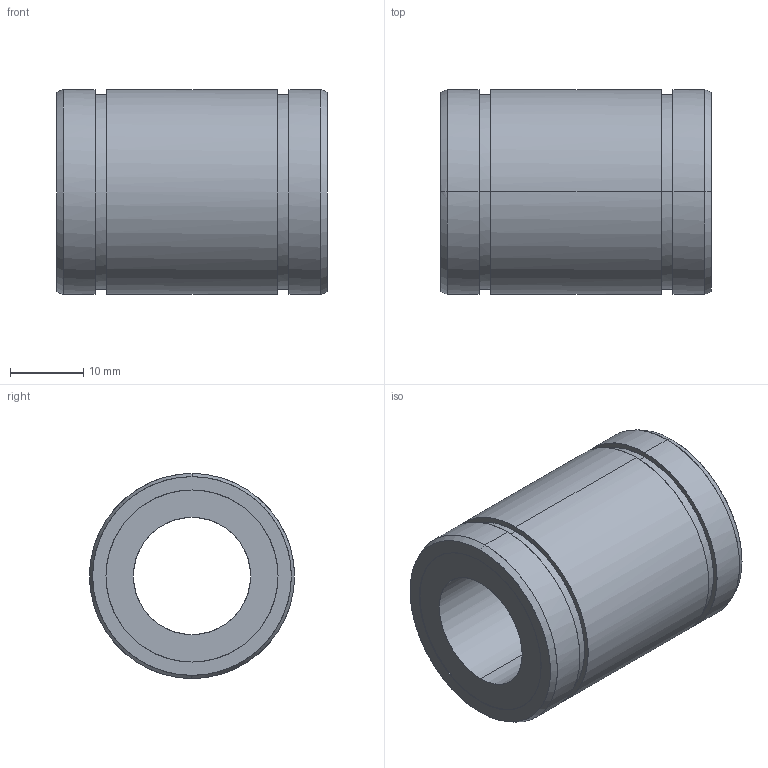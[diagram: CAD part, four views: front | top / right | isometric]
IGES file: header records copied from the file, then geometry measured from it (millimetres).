
Global section: file name: No Iges File Name specified; native system: AutoDesk Inventor R10; preprocessor: AutoDesk Inventor Iges Exporter R10; author: No Author specified; organization: No Organization specified; date: 20101208.094917; units: millimetre
Bounding box: 37 x 28 x 28 mm (x, y, z)
Surface area: 6115.5 mm2 (no closed solid volume)
Topology: 0 solids, 0 shells, 28 faces, 184 edges, 184 vertices
Faces by surface type: bspline 28
